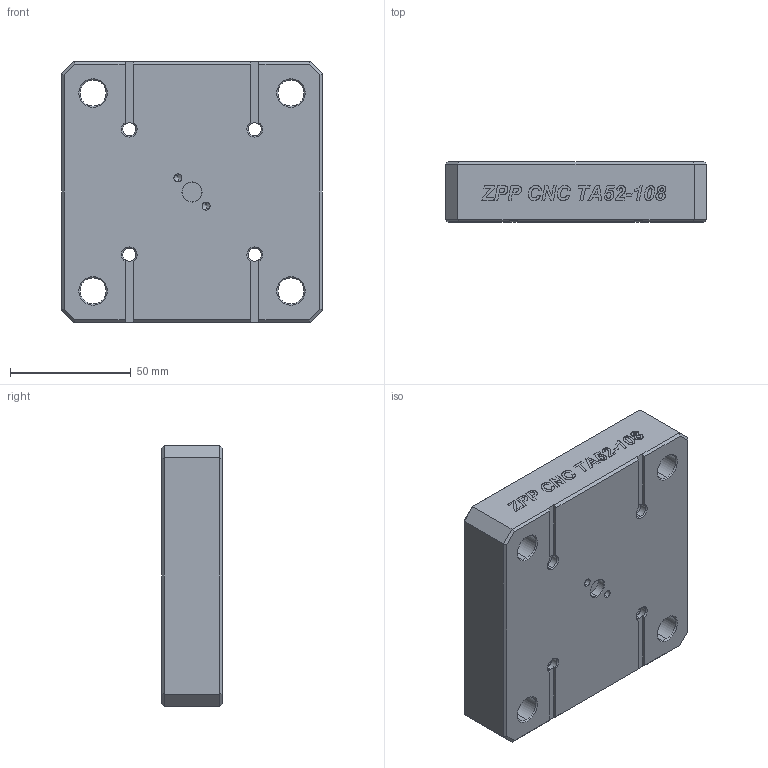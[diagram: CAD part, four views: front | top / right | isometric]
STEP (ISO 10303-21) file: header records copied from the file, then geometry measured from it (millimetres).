
FILE_DESCRIPTION((''),'2;1');
FILE_NAME('TA52-108','2024-04-28T11:30:26',('XF'),(''),'CREO PARAMETRIC BY PTC INC, 2022073','CREO PARAMETRIC BY PTC INC, 2022073','');
FILE_SCHEMA(('CONFIG_CONTROL_DESIGN'));
Length unit declared in the file: millimetre
Products named in the file (1): TA52-108
Bounding box: 108 x 25 x 108 mm (x, y, z)
Volume: 254852.5 mm3; surface area: 45854.5 mm2
Topology: 5 solids, 5 shells, 778 faces, 2048 edges, 1338 vertices
Faces by surface type: extrusion 318, plane 276, cylinder 108, cone 68, torus 8
Entity records: 24948 total; most frequent: CARTESIAN_POINT 6682, ORIENTED_EDGE 4072, DIRECTION 2942, EDGE_CURVE 2036, VECTOR 1398, VERTEX_POINT 1338, LINE 1080, B_SPLINE_CURVE_WITH_KNOTS 962
